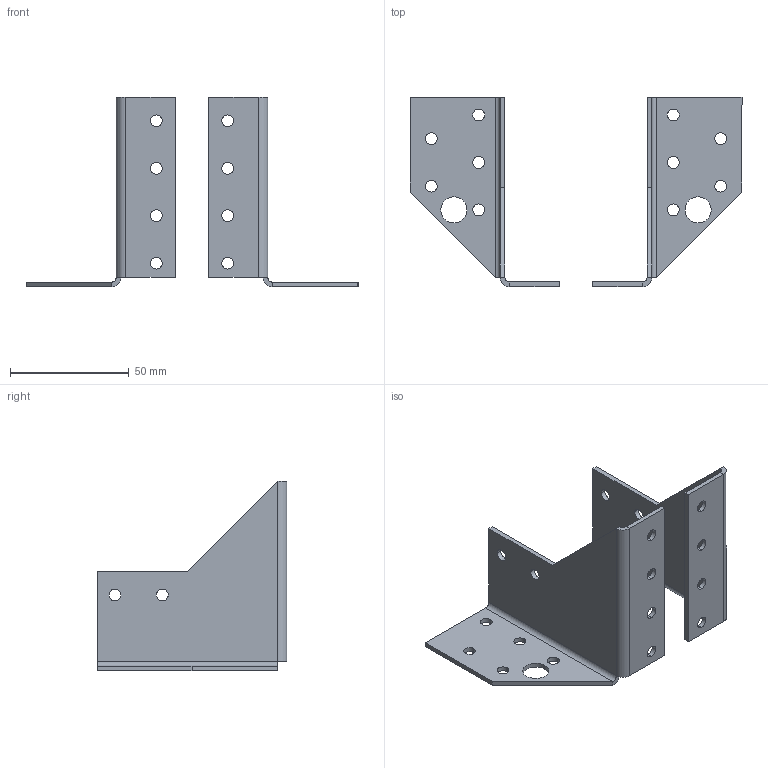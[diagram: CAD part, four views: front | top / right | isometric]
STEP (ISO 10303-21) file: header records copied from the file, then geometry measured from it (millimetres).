
FILE_DESCRIPTION (( 'STEP AP203' ), '1' );
FILE_NAME ('802.STEP', '2021-04-18T12:57:04', ( '' ), ( '' ), 'SwSTEP 2.0', 'SolidWorks 2013', '' );
FILE_SCHEMA (( 'CONFIG_CONTROL_DESIGN' ));
Length unit declared in the file: millimetre
Products named in the file (1): 802
Bounding box: 140 x 80 x 80 mm (x, y, z)
Volume: 30797.1 mm3; surface area: 33200.4 mm2
Topology: 2 solids, 2 shells, 94 faces, 238 edges, 148 vertices
Faces by surface type: cylinder 56, plane 38
Entity records: 3009 total; most frequent: DIRECTION 540, CARTESIAN_POINT 481, ORIENTED_EDGE 476, EDGE_CURVE 238, AXIS2_PLACEMENT_3D 207, VERTEX_POINT 148, EDGE_LOOP 142, VECTOR 126
